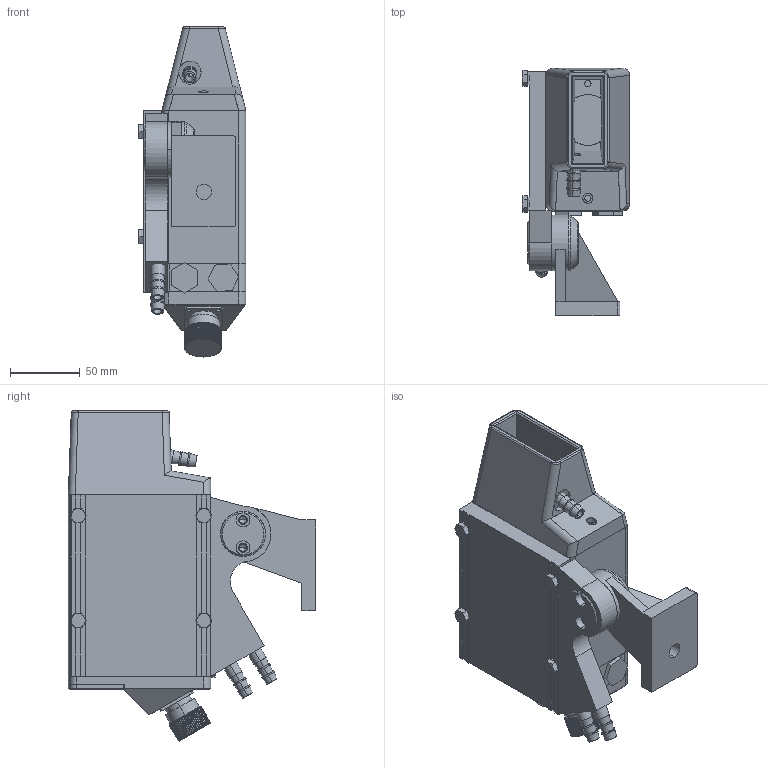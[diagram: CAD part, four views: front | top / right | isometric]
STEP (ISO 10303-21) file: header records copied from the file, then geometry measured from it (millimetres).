
FILE_DESCRIPTION (( 'STEP AP214' ), '1' );
FILE_NAME ('V Series JC STEP.STEP', '2013-05-29T08:04:21', ( '' ), ( '' ), 'SwSTEP 2.0', 'SolidWorks 2011', '' );
FILE_SCHEMA (( 'AUTOMOTIVE_DESIGN' ));
Length unit declared in the file: millimetre
Products named in the file (15): Platen MD_??; Housing Z MD; bouchon pg9; connecteur; Copie de etiquette V2; ensemble joue; Tubus V-Y; Pied VZ; M6x20_M6x20; Raccord eau A15023; A14846 Articulation; Joue refroidie y v z B14786; B14785-1_??; B14785-2_??; V Series JC STEP
Assembly tree (21 placements, depth 3):
  V Series JC STEP
    bouchon pg9  x2
    B14785-2_??
    Platen MD_??
    Tubus V-Y
    Raccord eau A15023
    Housing Z MD
    Copie de etiquette V2
    connecteur
    B14785-1_??
    ensemble joue
      M6x20_M6x20  x4
      Pied VZ
      Tubus V-Y
      A14846 Articulation
      Raccord eau A15023  x2
      Joue refroidie y v z B14786
Bounding box: 77.03 x 177 x 236.26 mm (x, y, z)
Volume: 1355277.4 mm3; surface area: 240246.4 mm2
Topology: 20 solids, 23 shells, 1701 faces, 4421 edges, 2866 vertices
Faces by surface type: plane 1042, cylinder 360, bspline 148, cone 139, torus 12
Entity records: 52111 total; most frequent: CARTESIAN_POINT 14017, ORIENTED_EDGE 7956, DIRECTION 6734, EDGE_CURVE 3978, VERTEX_POINT 2618, LINE 2596, VECTOR 2596, AXIS2_PLACEMENT_3D 2069
